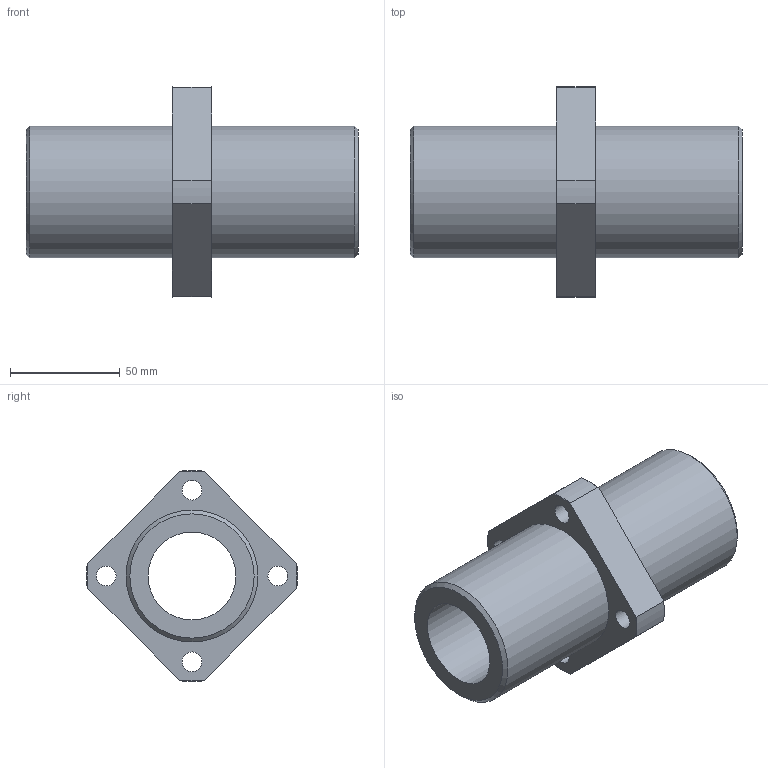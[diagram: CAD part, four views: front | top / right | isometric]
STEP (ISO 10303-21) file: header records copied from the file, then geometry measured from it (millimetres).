
FILE_DESCRIPTION(('STEP AP203'),'1');
FILE_NAME('//192.168.1.1/share/s-4 技術開発/s-4-4_CAD/s-4-4-3_見直し済み/PBC LINEAR修正済み/CFPJ/CFPJ_TOP/CFPJ/CFPJ40.step','2022-03-24T03:58:15',(' '),(' '),'Spatial InterOp 3D',' ',' ');
FILE_SCHEMA(('CONFIG_CONTROL_DESIGN'));
Length unit declared in the file: millimetre
Products named in the file (1): 1
Bounding box: 151 x 95.93 x 95.93 mm (x, y, z)
Volume: 277577.5 mm3; surface area: 59283.2 mm2
Topology: 1 solids, 1 shells, 37 faces, 91 edges, 62 vertices
Faces by surface type: cylinder 15, plane 12, cone 10
Full cylindrical faces by diameter (mm): 9 x4, 14 x4, 40 x1, 60 x2
Entity records: 1078 total; most frequent: CARTESIAN_POINT 214, DIRECTION 172, ORIENTED_EDGE 144, AXIS2_PLACEMENT_3D 78, EDGE_CURVE 72, EDGE_LOOP 66, VERTEX_POINT 56, FACE_OUTER_BOUND 48
